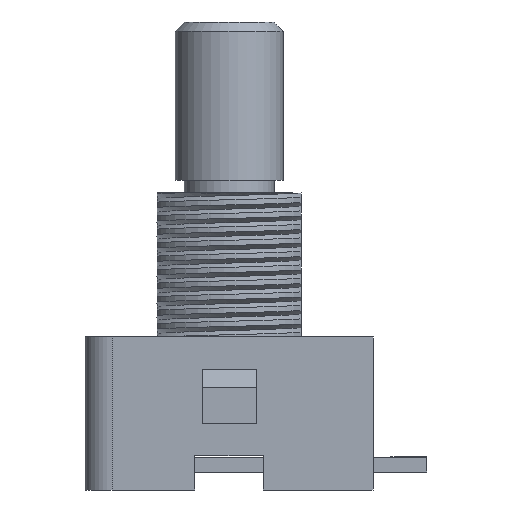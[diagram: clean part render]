
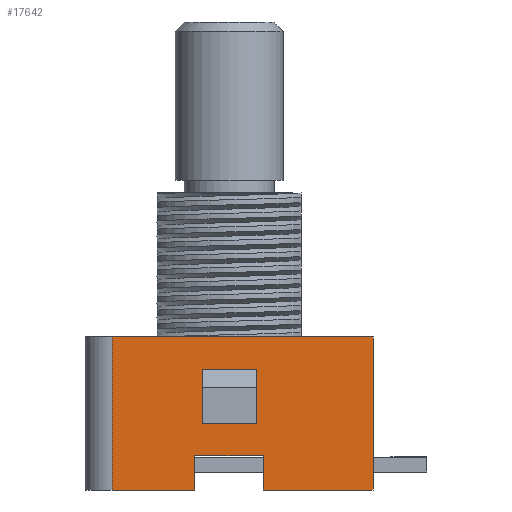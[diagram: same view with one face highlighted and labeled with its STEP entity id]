
A CAD part, left-side view. The second image highlights one B-rep face of the part: STEP entity #17642.
In plain terms, the highlighted planar face has unit normal (-1, 0, 0).
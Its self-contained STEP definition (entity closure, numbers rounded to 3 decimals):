
#72 = CARTESIAN_POINT ( 'NONE',  ( -7., -1.9, 1.9 ) ) ;
#912 = ORIENTED_EDGE ( 'NONE', *, *, #3599, .T. ) ;
#1850 = CARTESIAN_POINT ( 'NONE',  ( -7., -1.9, 0. ) ) ;
#1997 = DIRECTION ( 'NONE',  ( 0., 0., -1. ) ) ;
#2073 = VECTOR ( 'NONE', #12332, 1000. ) ;
#2280 = CARTESIAN_POINT ( 'NONE',  ( -7., 6.5, 8.5 ) ) ;
#2303 = VECTOR ( 'NONE', #2311, 1000. ) ;
#2311 = DIRECTION ( 'NONE',  ( 0., -1., 0. ) ) ;
#2345 = CARTESIAN_POINT ( 'NONE',  ( -7., 8., 0. ) ) ;
#2630 = DIRECTION ( 'NONE',  ( 1., 0., 0. ) ) ;
#2638 = DIRECTION ( 'NONE',  ( 0., 0., 1. ) ) ;
#2728 = LINE ( 'NONE', #17725, #17582 ) ;
#3467 = EDGE_CURVE ( 'NONE', #4197, #26510, #20977, .T. ) ;
#3599 = EDGE_CURVE ( 'NONE', #13391, #7029, #5454, .T. ) ;
#3748 = DIRECTION ( 'NONE',  ( 0., 0., -1. ) ) ;
#4102 = CARTESIAN_POINT ( 'NONE',  ( -7., 1.5, 3.7 ) ) ;
#4197 = VERTEX_POINT ( 'NONE', #72 ) ;
#4228 = LINE ( 'NONE', #13057, #23292 ) ;
#4917 = PLANE ( 'NONE',  #17625 ) ;
#4925 = CARTESIAN_POINT ( 'NONE',  ( -7., -1.5, 6.7 ) ) ;
#5002 = VECTOR ( 'NONE', #17755, 1000. ) ;
#5062 = CARTESIAN_POINT ( 'NONE',  ( -7., 1.9, 1.9 ) ) ;
#5150 = CARTESIAN_POINT ( 'NONE',  ( -7., -1.5, 3.7 ) ) ;
#5294 = LINE ( 'NONE', #14028, #6711 ) ;
#5323 = FACE_BOUND ( 'NONE', #11609, .T. ) ;
#5454 = LINE ( 'NONE', #17474, #28786 ) ;
#5799 = VECTOR ( 'NONE', #6744, 1000. ) ;
#5803 = CARTESIAN_POINT ( 'NONE',  ( -7., -1.5, 3.7 ) ) ;
#5868 = EDGE_CURVE ( 'NONE', #18029, #25672, #20620, .T. ) ;
#6062 = ORIENTED_EDGE ( 'NONE', *, *, #6592, .T. ) ;
#6189 = ORIENTED_EDGE ( 'NONE', *, *, #9482, .F. ) ;
#6592 = EDGE_CURVE ( 'NONE', #18057, #9669, #10395, .T. ) ;
#6656 = VECTOR ( 'NONE', #17064, 1000. ) ;
#6711 = VECTOR ( 'NONE', #2638, 1000. ) ;
#6744 = DIRECTION ( 'NONE',  ( 0., 0., -1. ) ) ;
#7029 = VERTEX_POINT ( 'NONE', #5150 ) ;
#7617 = ORIENTED_EDGE ( 'NONE', *, *, #5868, .T. ) ;
#8193 = ORIENTED_EDGE ( 'NONE', *, *, #19172, .F. ) ;
#8301 = VECTOR ( 'NONE', #27777, 1000. ) ;
#8740 = ORIENTED_EDGE ( 'NONE', *, *, #18880, .F. ) ;
#8763 = CARTESIAN_POINT ( 'NONE',  ( -7., 8., 0. ) ) ;
#8946 = ORIENTED_EDGE ( 'NONE', *, *, #15465, .F. ) ;
#9198 = ORIENTED_EDGE ( 'NONE', *, *, #9984, .F. ) ;
#9482 = EDGE_CURVE ( 'NONE', #28468, #25672, #2728, .T. ) ;
#9669 = VERTEX_POINT ( 'NONE', #26491 ) ;
#9750 = CARTESIAN_POINT ( 'NONE',  ( -7., 8., 8.5 ) ) ;
#9984 = EDGE_CURVE ( 'NONE', #18057, #28468, #11568, .T. ) ;
#10090 = LINE ( 'NONE', #8763, #2303 ) ;
#10363 = CARTESIAN_POINT ( 'NONE',  ( -7., 1.9, 1.9 ) ) ;
#10395 = LINE ( 'NONE', #2280, #5799 ) ;
#10626 = FACE_OUTER_BOUND ( 'NONE', #28360, .T. ) ;
#10673 = CARTESIAN_POINT ( 'NONE',  ( -7., 6.5, 8.5 ) ) ;
#11568 = LINE ( 'NONE', #9750, #15102 ) ;
#11609 = EDGE_LOOP ( 'NONE', ( #912, #27914, #8946, #8193 ) ) ;
#12332 = DIRECTION ( 'NONE',  ( 0., 1., 0. ) ) ;
#12783 = LINE ( 'NONE', #19609, #5002 ) ;
#13057 = CARTESIAN_POINT ( 'NONE',  ( -7., 1.9, 0. ) ) ;
#13391 = VERTEX_POINT ( 'NONE', #4925 ) ;
#13837 = CARTESIAN_POINT ( 'NONE',  ( -7., -8., 8.5 ) ) ;
#14028 = CARTESIAN_POINT ( 'NONE',  ( -7., -1.9, 0. ) ) ;
#14649 = VECTOR ( 'NONE', #18163, 1000. ) ;
#15102 = VECTOR ( 'NONE', #27515, 1000. ) ;
#15465 = EDGE_CURVE ( 'NONE', #20355, #21048, #12783, .T. ) ;
#15627 = VERTEX_POINT ( 'NONE', #20364 ) ;
#17064 = DIRECTION ( 'NONE',  ( 0., 1., 0. ) ) ;
#17250 = LINE ( 'NONE', #5803, #6656 ) ;
#17381 = DIRECTION ( 'NONE',  ( 0., 0., -1. ) ) ;
#17474 = CARTESIAN_POINT ( 'NONE',  ( -7., -1.5, 6.7 ) ) ;
#17539 = CARTESIAN_POINT ( 'NONE',  ( -7., 1.5, 6.7 ) ) ;
#17582 = VECTOR ( 'NONE', #1997, 1000. ) ;
#17625 = AXIS2_PLACEMENT_3D ( 'NONE', #18454, #2630, #25334 ) ;
#17642 = ADVANCED_FACE ( 'NONE', ( #10626, #5323 ), #4917, .F. ) ;
#17725 = CARTESIAN_POINT ( 'NONE',  ( -7., -8., 8.5 ) ) ;
#17755 = DIRECTION ( 'NONE',  ( 0., 0., -1. ) ) ;
#18029 = VERTEX_POINT ( 'NONE', #1850 ) ;
#18057 = VERTEX_POINT ( 'NONE', #10673 ) ;
#18163 = DIRECTION ( 'NONE',  ( 0., -1., 0. ) ) ;
#18377 = EDGE_CURVE ( 'NONE', #26510, #15627, #4228, .T. ) ;
#18454 = CARTESIAN_POINT ( 'NONE',  ( -7., 8., 8.5 ) ) ;
#18880 = EDGE_CURVE ( 'NONE', #18029, #4197, #5294, .T. ) ;
#19088 = ORIENTED_EDGE ( 'NONE', *, *, #24521, .T. ) ;
#19172 = EDGE_CURVE ( 'NONE', #13391, #20355, #26098, .T. ) ;
#19609 = CARTESIAN_POINT ( 'NONE',  ( -7., 1.5, 6.7 ) ) ;
#20071 = EDGE_CURVE ( 'NONE', #7029, #21048, #17250, .T. ) ;
#20355 = VERTEX_POINT ( 'NONE', #17539 ) ;
#20364 = CARTESIAN_POINT ( 'NONE',  ( -7., 1.9, 0. ) ) ;
#20620 = LINE ( 'NONE', #2345, #14649 ) ;
#20977 = LINE ( 'NONE', #5062, #8301 ) ;
#21048 = VERTEX_POINT ( 'NONE', #4102 ) ;
#21473 = CARTESIAN_POINT ( 'NONE',  ( -7., -1.5, 6.7 ) ) ;
#23284 = ORIENTED_EDGE ( 'NONE', *, *, #3467, .F. ) ;
#23292 = VECTOR ( 'NONE', #17381, 1000. ) ;
#24521 = EDGE_CURVE ( 'NONE', #9669, #15627, #10090, .T. ) ;
#25334 = DIRECTION ( 'NONE',  ( 0., 1., 0. ) ) ;
#25672 = VERTEX_POINT ( 'NONE', #29228 ) ;
#26098 = LINE ( 'NONE', #21473, #2073 ) ;
#26491 = CARTESIAN_POINT ( 'NONE',  ( -7., 6.5, 0. ) ) ;
#26510 = VERTEX_POINT ( 'NONE', #10363 ) ;
#27382 = ORIENTED_EDGE ( 'NONE', *, *, #18377, .F. ) ;
#27515 = DIRECTION ( 'NONE',  ( 0., -1., 0. ) ) ;
#27777 = DIRECTION ( 'NONE',  ( 0., 1., 0. ) ) ;
#27914 = ORIENTED_EDGE ( 'NONE', *, *, #20071, .T. ) ;
#28360 = EDGE_LOOP ( 'NONE', ( #19088, #27382, #23284, #8740, #7617, #6189, #9198, #6062 ) ) ;
#28468 = VERTEX_POINT ( 'NONE', #13837 ) ;
#28786 = VECTOR ( 'NONE', #3748, 1000. ) ;
#29228 = CARTESIAN_POINT ( 'NONE',  ( -7., -8., 0. ) ) ;
